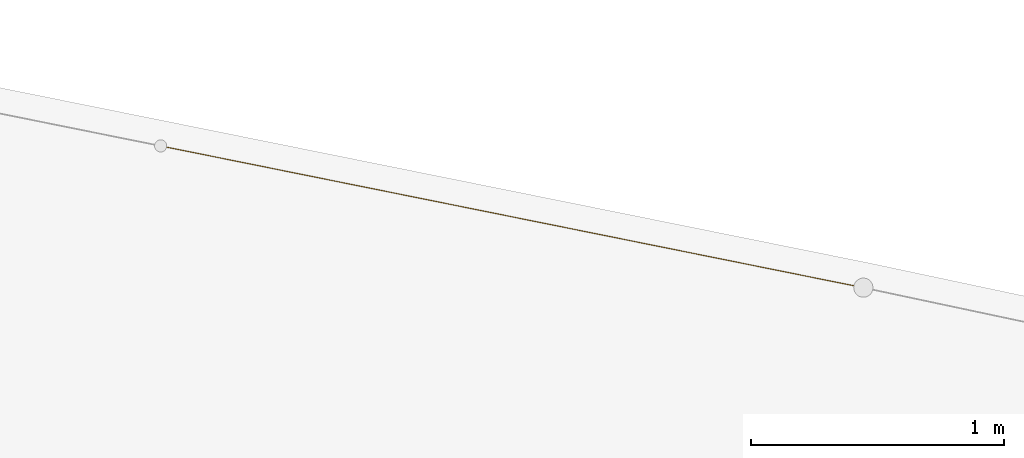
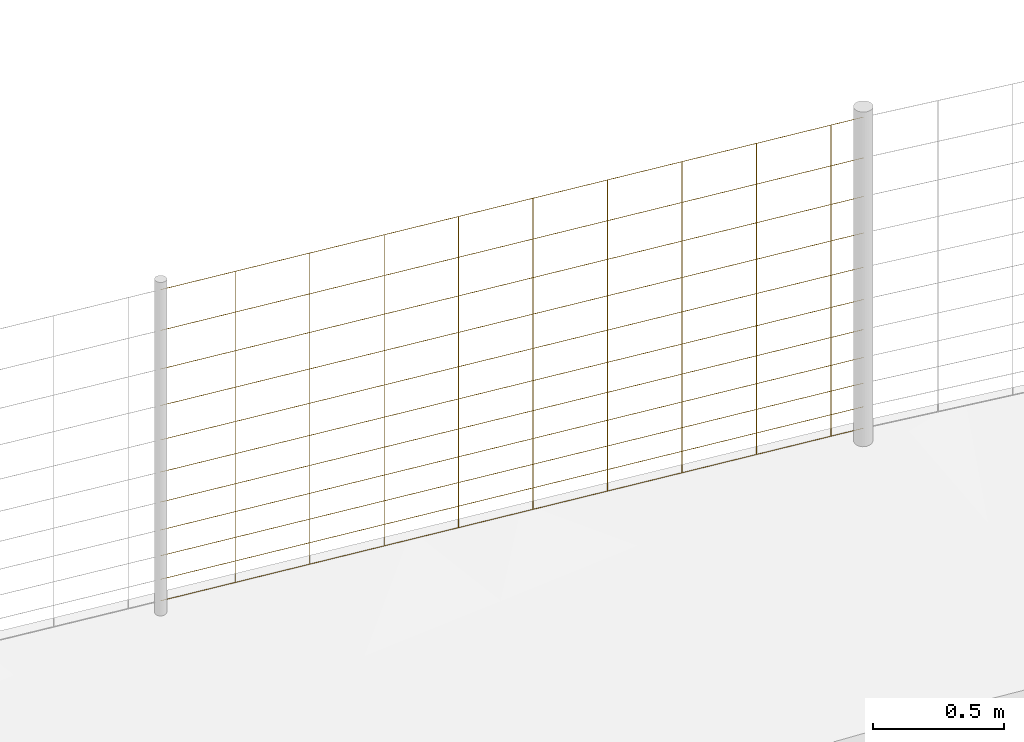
# Not in any storey, part 56 of 72: 1 railing.
"""IFC4 model written with IfcOpenShell, lengths in metres."""

from ifc_helpers import new_model, si_unit, direction, frame, origin_with_axes, place, context, subcontext, project, spatial, polygons, material, element, save


model = new_model("IFC4")

# Units and contexts
model_context = context("Model", 3, precision=1e-05, world=origin_with_axes(), true_north=direction((0.0, 1.0)))
body_context = subcontext(model_context, "Body", "Model", "MODEL_VIEW")
ifc_project = project(units=[si_unit("VOLUMEUNIT", "CUBIC_METRE"), si_unit("LENGTHUNIT", "METRE"), si_unit("AREAUNIT", "SQUARE_METRE")], contexts=[model_context])

# Site
site_placement = place(None, origin_with_axes())
site = spatial("IfcSite", under=ifc_project, at=site_placement, Name="Lares · Rua das Mercês · artigo 4771")

# Railing
ifc_material = material(Name="Aço galvanizado / Stahl verzinkt", Category="steel")
railing_placement = place(site_placement, frame((0.0, 0.0, 0.0), z_axis=(0.0, 0.0, 1.0), x_axis=(1.0, -1.03767253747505e-17, 0.0)))
element("IfcRailing", 1, at=railing_placement, inside=site, material=ifc_material, Name="Vedação · rede ovelheira 1.077", ObjectType="SHEEP_WIRE_FENCE", PredefinedType="USERDEFINED", context=body_context, shape_type="Tessellation", body=[
    polygons([(70.7465421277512, 10.2498024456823, 16.0850807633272), (70.7469278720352, 10.2512548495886, 16.083583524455), (70.7471352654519, 10.2527432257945, 16.0850807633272), (70.7467495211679, 10.2512908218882, 16.0865780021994), (73.5210269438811, 9.69020550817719, 16.2570512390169), (73.5214126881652, 9.69165791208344, 16.2555540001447), (73.5216200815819, 9.69314628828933, 16.2570512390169), (73.5212343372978, 9.69169388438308, 16.2585484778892), (70.7465421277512, 10.2498024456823, 16.1850807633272), (70.7469278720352, 10.2512548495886, 16.183583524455), (70.7471352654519, 10.2527432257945, 16.1850807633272), (70.7467495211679, 10.2512908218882, 16.1865780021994), (73.5210269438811, 9.69020550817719, 16.3570512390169), (73.5214126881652, 9.69165791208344, 16.3555540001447), (73.5216200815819, 9.69314628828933, 16.3570512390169), (73.5212343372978, 9.69169388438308, 16.3585484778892), (70.7465421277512, 10.2498024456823, 16.2950807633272), (70.7469278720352, 10.2512548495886, 16.293583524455), (70.7471352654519, 10.2527432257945, 16.2950807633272), (70.7467495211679, 10.2512908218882, 16.2965780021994), (73.5210269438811, 9.69020550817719, 16.4670512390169), (73.5214126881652, 9.69165791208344, 16.4655540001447), (73.5216200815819, 9.69314628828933, 16.4670512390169), (73.5212343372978, 9.69169388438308, 16.4685484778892), (70.7465421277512, 10.2498024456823, 16.4150807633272), (70.7469278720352, 10.2512548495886, 16.413583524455), (70.7471352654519, 10.2527432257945, 16.4150807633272), (70.7467495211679, 10.2512908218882, 16.4165780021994), (73.5210269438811, 9.69020550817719, 16.5870512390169), (73.5214126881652, 9.69165791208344, 16.5855540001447), (73.5216200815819, 9.69314628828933, 16.5870512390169), (73.5212343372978, 9.69169388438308, 16.5885484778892), (70.7465421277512, 10.2498024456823, 16.5450807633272), (70.7469278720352, 10.2512548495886, 16.543583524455), (70.7471352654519, 10.2527432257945, 16.5450807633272), (70.7467495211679, 10.2512908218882, 16.5465780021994), (73.5210269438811, 9.69020550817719, 16.7170512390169), (73.5214126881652, 9.69165791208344, 16.7155540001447), (73.5216200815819, 9.69314628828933, 16.7170512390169), (73.5212343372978, 9.69169388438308, 16.7185484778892), (70.7465421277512, 10.2498024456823, 16.6850807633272), (70.7469278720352, 10.2512548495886, 16.683583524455), (70.7471352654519, 10.2527432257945, 16.6850807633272), (70.7467495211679, 10.2512908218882, 16.6865780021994), (73.5210269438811, 9.69020550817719, 16.8570512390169), (73.5214126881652, 9.69165791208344, 16.8555540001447), (73.5216200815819, 9.69314628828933, 16.8570512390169), (73.5212343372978, 9.69169388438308, 16.8585484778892), (70.7465421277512, 10.2498024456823, 16.8350807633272), (70.7469278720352, 10.2512548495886, 16.833583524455), (70.7471352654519, 10.2527432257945, 16.8350807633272), (70.7467495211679, 10.2512908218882, 16.8365780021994), (73.5210269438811, 9.69020550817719, 17.0070512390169), (73.5214126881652, 9.69165791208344, 17.0055540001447), (73.5216200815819, 9.69314628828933, 17.0070512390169), (73.5212343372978, 9.69169388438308, 17.0085484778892), (70.7465421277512, 10.2498024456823, 16.9950807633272), (70.7469278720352, 10.2512548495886, 16.993583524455), (70.7471352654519, 10.2527432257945, 16.9950807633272), (70.7467495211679, 10.2512908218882, 16.9965780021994), (73.5210269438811, 9.69020550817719, 17.1670512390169), (73.5214126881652, 9.69165791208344, 17.1655540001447), (73.5216200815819, 9.69314628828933, 17.1670512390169), (73.5212343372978, 9.69169388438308, 17.1685484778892), (70.7465421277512, 10.2498024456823, 17.1650807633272), (70.7469278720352, 10.2512548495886, 17.163583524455), (70.7471352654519, 10.2527432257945, 17.1650807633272), (70.7467495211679, 10.2512908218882, 17.1665780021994), (73.5210269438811, 9.69020550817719, 17.3370512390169), (73.5214126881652, 9.69165791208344, 17.3355540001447), (73.5216200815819, 9.69314628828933, 17.3370512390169), (73.5212343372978, 9.69169388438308, 17.3385484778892), (70.7465421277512, 10.2498024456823, 17.3450807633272), (70.7469278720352, 10.2512548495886, 17.343583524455), (70.7471352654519, 10.2527432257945, 17.3450807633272), (70.7467495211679, 10.2512908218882, 17.3465780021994), (73.5210269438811, 9.69020550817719, 17.5170512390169), (73.5214126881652, 9.69165791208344, 17.5155540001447), (73.5216200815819, 9.69314628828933, 17.5170512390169), (73.5212343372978, 9.69169388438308, 17.5185484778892), (70.7465421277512, 10.2498024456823, 17.5350807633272), (70.7469278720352, 10.2512548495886, 17.533583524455), (70.7471352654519, 10.2527432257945, 17.5350807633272), (70.7467495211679, 10.2512908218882, 17.5365780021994), (73.5210269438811, 9.69020550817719, 17.7070512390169), (73.5214126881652, 9.69165791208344, 17.7055540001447), (73.5216200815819, 9.69314628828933, 17.7070512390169), (73.5212343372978, 9.69169388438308, 17.7085484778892), (71.0409167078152, 10.1934590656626, 16.103308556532), (71.0394167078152, 10.1919590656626, 16.103308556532), (71.0409167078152, 10.1904590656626, 16.103308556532), (71.0424167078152, 10.1919590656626, 16.103308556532), (71.0409167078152, 10.1934590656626, 17.553308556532), (71.0394167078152, 10.1919590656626, 17.553308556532), (71.0409167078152, 10.1904590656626, 17.553308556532), (71.0424167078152, 10.1919590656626, 17.553308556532), (71.3349947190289, 10.1341452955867, 16.1215363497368), (71.3334947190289, 10.1326452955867, 16.1215363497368), (71.3349947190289, 10.1311452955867, 16.1215363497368), (71.3364947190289, 10.1326452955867, 16.1215363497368), (71.3349947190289, 10.1341452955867, 17.5715363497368), (71.3334947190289, 10.1326452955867, 17.5715363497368), (71.3349947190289, 10.1311452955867, 17.5715363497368), (71.3364947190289, 10.1326452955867, 17.5715363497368), (71.6290727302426, 10.0748315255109, 16.1397641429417), (71.6275727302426, 10.0733315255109, 16.1397641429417), (71.6290727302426, 10.0718315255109, 16.1397641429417), (71.6305727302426, 10.0733315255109, 16.1397641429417), (71.6290727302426, 10.0748315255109, 17.5897641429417), (71.6275727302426, 10.0733315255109, 17.5897641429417), (71.6290727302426, 10.0718315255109, 17.5897641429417), (71.6305727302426, 10.0733315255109, 17.5897641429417), (71.9231507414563, 10.0155177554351, 16.1579919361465), (71.9216507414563, 10.0140177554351, 16.1579919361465), (71.9231507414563, 10.0125177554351, 16.1579919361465), (71.9246507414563, 10.0140177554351, 16.1579919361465), (71.9231507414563, 10.0155177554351, 17.6079919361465), (71.9216507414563, 10.0140177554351, 17.6079919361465), (71.9231507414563, 10.0125177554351, 17.6079919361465), (71.9246507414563, 10.0140177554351, 17.6079919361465), (72.21722875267, 9.9562039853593, 16.1762197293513), (72.21572875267, 9.9547039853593, 16.1762197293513), (72.21722875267, 9.9532039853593, 16.1762197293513), (72.2187287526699, 9.9547039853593, 16.1762197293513), (72.21722875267, 9.9562039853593, 17.6262197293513), (72.21572875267, 9.9547039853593, 17.6262197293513), (72.21722875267, 9.9532039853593, 17.6262197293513), (72.2187287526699, 9.9547039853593, 17.6262197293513), (72.5113067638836, 9.89689021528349, 16.1944475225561), (72.5098067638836, 9.89539021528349, 16.1944475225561), (72.5113067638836, 9.89389021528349, 16.1944475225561), (72.5128067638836, 9.89539021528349, 16.1944475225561), (72.5113067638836, 9.89689021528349, 17.6444475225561), (72.5098067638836, 9.89539021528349, 17.6444475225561), (72.5113067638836, 9.89389021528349, 17.6444475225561), (72.5128067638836, 9.89539021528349, 17.6444475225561), (72.8053847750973, 9.83757644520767, 16.2126753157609), (72.8038847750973, 9.83607644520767, 16.2126753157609), (72.8053847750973, 9.83457644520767, 16.2126753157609), (72.8068847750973, 9.83607644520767, 16.2126753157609), (72.8053847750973, 9.83757644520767, 17.6626753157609), (72.8038847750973, 9.83607644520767, 17.6626753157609), (72.8053847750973, 9.83457644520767, 17.6626753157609), (72.8068847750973, 9.83607644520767, 17.6626753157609), (73.099462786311, 9.77826267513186, 16.2309031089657), (73.097962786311, 9.77676267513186, 16.2309031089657), (73.099462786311, 9.77526267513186, 16.2309031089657), (73.100962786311, 9.77676267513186, 16.2309031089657), (73.099462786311, 9.77826267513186, 17.6809031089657), (73.097962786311, 9.77676267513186, 17.6809031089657), (73.099462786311, 9.77526267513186, 17.6809031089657), (73.100962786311, 9.77676267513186, 17.6809031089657), (73.3935407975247, 9.71894890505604, 16.2491309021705), (73.3920407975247, 9.71744890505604, 16.2491309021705), (73.3935407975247, 9.71594890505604, 16.2491309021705), (73.3950407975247, 9.71744890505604, 16.2491309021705), (73.3935407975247, 9.71894890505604, 17.6991309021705), (73.3920407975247, 9.71744890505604, 17.6991309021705), (73.3935407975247, 9.71594890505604, 17.6991309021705), (73.3950407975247, 9.71744890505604, 17.6991309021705)], [[[4, 3, 2, 1]], [[5, 6, 7, 8]], [[1, 2, 6, 5]], [[2, 3, 7, 6]], [[3, 4, 8, 7]], [[4, 1, 5, 8]], [[12, 11, 10, 9]], [[13, 14, 15, 16]], [[9, 10, 14, 13]], [[10, 11, 15, 14]], [[11, 12, 16, 15]], [[12, 9, 13, 16]], [[20, 19, 18, 17]], [[21, 22, 23, 24]], [[17, 18, 22, 21]], [[18, 19, 23, 22]], [[19, 20, 24, 23]], [[20, 17, 21, 24]], [[28, 27, 26, 25]], [[29, 30, 31, 32]], [[25, 26, 30, 29]], [[26, 27, 31, 30]], [[27, 28, 32, 31]], [[28, 25, 29, 32]], [[36, 35, 34, 33]], [[37, 38, 39, 40]], [[33, 34, 38, 37]], [[34, 35, 39, 38]], [[35, 36, 40, 39]], [[36, 33, 37, 40]], [[44, 43, 42, 41]], [[45, 46, 47, 48]], [[41, 42, 46, 45]], [[42, 43, 47, 46]], [[43, 44, 48, 47]], [[44, 41, 45, 48]], [[52, 51, 50, 49]], [[53, 54, 55, 56]], [[49, 50, 54, 53]], [[50, 51, 55, 54]], [[51, 52, 56, 55]], [[52, 49, 53, 56]], [[60, 59, 58, 57]], [[61, 62, 63, 64]], [[57, 58, 62, 61]], [[58, 59, 63, 62]], [[59, 60, 64, 63]], [[60, 57, 61, 64]], [[68, 67, 66, 65]], [[69, 70, 71, 72]], [[65, 66, 70, 69]], [[66, 67, 71, 70]], [[67, 68, 72, 71]], [[68, 65, 69, 72]], [[76, 75, 74, 73]], [[77, 78, 79, 80]], [[73, 74, 78, 77]], [[74, 75, 79, 78]], [[75, 76, 80, 79]], [[76, 73, 77, 80]], [[84, 83, 82, 81]], [[85, 86, 87, 88]], [[81, 82, 86, 85]], [[82, 83, 87, 86]], [[83, 84, 88, 87]], [[84, 81, 85, 88]], [[92, 91, 90, 89]], [[93, 94, 95, 96]], [[89, 90, 94, 93]], [[90, 91, 95, 94]], [[91, 92, 96, 95]], [[92, 89, 93, 96]], [[100, 99, 98, 97]], [[101, 102, 103, 104]], [[97, 98, 102, 101]], [[98, 99, 103, 102]], [[99, 100, 104, 103]], [[100, 97, 101, 104]], [[108, 107, 106, 105]], [[109, 110, 111, 112]], [[105, 106, 110, 109]], [[106, 107, 111, 110]], [[107, 108, 112, 111]], [[108, 105, 109, 112]], [[116, 115, 114, 113]], [[117, 118, 119, 120]], [[113, 114, 118, 117]], [[114, 115, 119, 118]], [[115, 116, 120, 119]], [[116, 113, 117, 120]], [[124, 123, 122, 121]], [[125, 126, 127, 128]], [[121, 122, 126, 125]], [[122, 123, 127, 126]], [[123, 124, 128, 127]], [[124, 121, 125, 128]], [[132, 131, 130, 129]], [[133, 134, 135, 136]], [[129, 130, 134, 133]], [[130, 131, 135, 134]], [[131, 132, 136, 135]], [[132, 129, 133, 136]], [[140, 139, 138, 137]], [[141, 142, 143, 144]], [[137, 138, 142, 141]], [[138, 139, 143, 142]], [[139, 140, 144, 143]], [[140, 137, 141, 144]], [[148, 147, 146, 145]], [[149, 150, 151, 152]], [[145, 146, 150, 149]], [[146, 147, 151, 150]], [[147, 148, 152, 151]], [[148, 145, 149, 152]], [[156, 155, 154, 153]], [[157, 158, 159, 160]], [[153, 154, 158, 157]], [[154, 155, 159, 158]], [[155, 156, 160, 159]], [[156, 153, 157, 160]]]),
])

save(model, "model.ifc")
